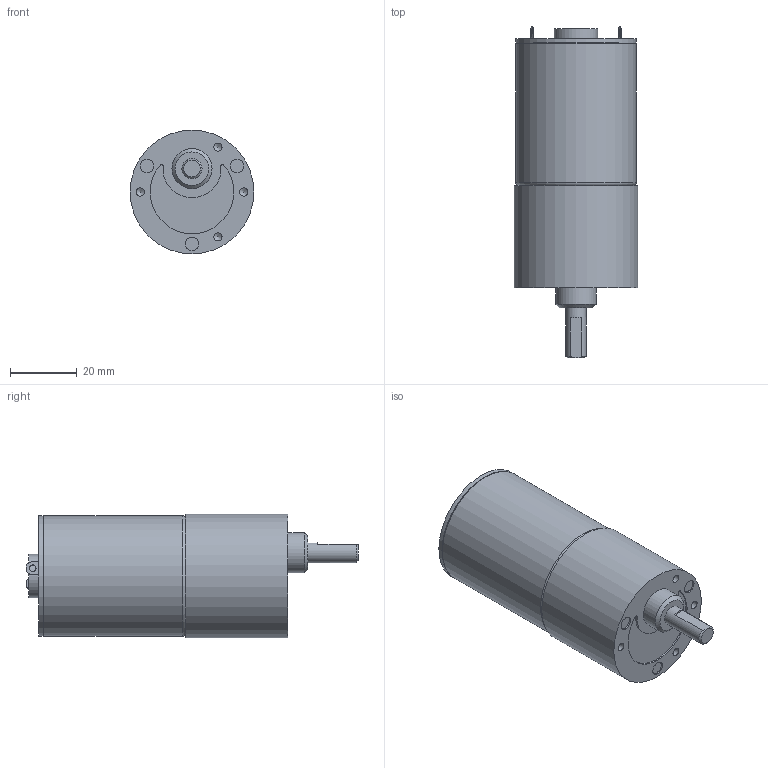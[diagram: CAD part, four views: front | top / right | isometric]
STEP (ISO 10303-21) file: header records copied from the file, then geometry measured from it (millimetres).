
FILE_DESCRIPTION((''),'2;1');
FILE_NAME('C:\Documents and Settings\SSEGAWA\デスクトップ\TP-3644D-KG-6.STP','2013-07-25T17:32:40',('SSEGAWA'),(''),'Autodesk Inventor 2010','Autodesk Inventor 2010','');
FILE_SCHEMA(('CONFIG_CONTROL_DESIGN'));
Length unit declared in the file: millimetre
Products named in the file (1): tp_3644dh_kg-6_Shrinkwrap_1
Bounding box: 37 x 99.3 x 37 mm (x, y, z)
Volume: 78732.5 mm3; surface area: 11816.2 mm2
Topology: 1 solids, 4 shells, 64 faces, 136 edges, 91 vertices
Faces by surface type: plane 27, cylinder 18, bspline 16, cone 2, torus 1
Full cylindrical faces by diameter (mm): 3 x1, 3.5 x1, 4 x3, 6 x1, 12 x1, 13 x1, 35.6 x1, 36 x2, 37 x1
Entity records: 1730 total; most frequent: CARTESIAN_POINT 500, DIRECTION 241, ORIENTED_EDGE 174, EDGE_LOOP 109, AXIS2_PLACEMENT_3D 107, EDGE_CURVE 87, VERTEX_POINT 72, STYLED_ITEM 65
